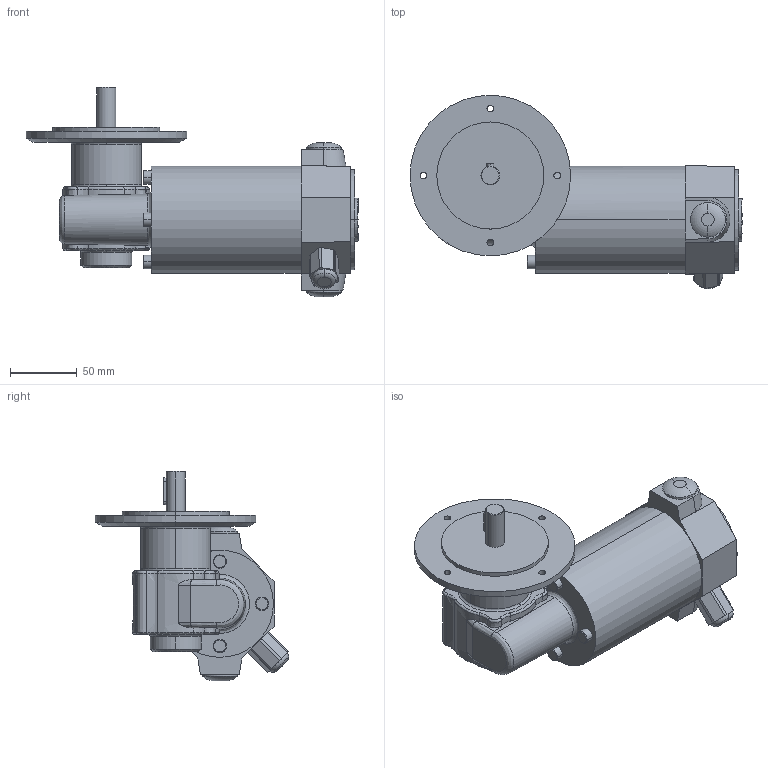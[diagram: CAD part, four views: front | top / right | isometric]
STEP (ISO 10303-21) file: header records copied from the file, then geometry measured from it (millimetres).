
FILE_DESCRIPTION(('OneSpaceDesigner STEP Export'),'2;1');
FILE_NAME('EPG12_GF130-10.stp','2008-07-10T 7:17:38',(''),(''),'OneSpace Designer STEP processor (Jan. 2003) for AP214(CD)(Solid Model)','OneSpace Designer 12.01D 09-Jul-2004 (C) CoCreate Software GmbH','');
FILE_SCHEMA(('AUTOMOTIVE_DESIGN_CC2 {1 2 10303 214 -1 1 5 1}'));
Length unit declared in the file: millimetre
Products named in the file (2): EPG12_GF130-10
Assembly tree (1 placements, depth 2):
  EPG12_GF130-10
    EPG12_GF130-10
Bounding box: 248 x 144.4 x 156.5 mm (x, y, z)
Volume: 1228997.1 mm3; surface area: 101880.1 mm2
Topology: 1 solids, 1 shells, 192 faces, 483 edges, 309 vertices
Faces by surface type: plane 52, cylinder 48, bspline 41, extrusion 25, torus 14, cone 12
Entity records: 16426 total; most frequent: CARTESIAN_POINT 12561, ORIENTED_EDGE 966, DIRECTION 514, EDGE_CURVE 483, VERTEX_POINT 309, EDGE_LOOP 216, FACE_OUTER_BOUND 192, ADVANCED_FACE 192
